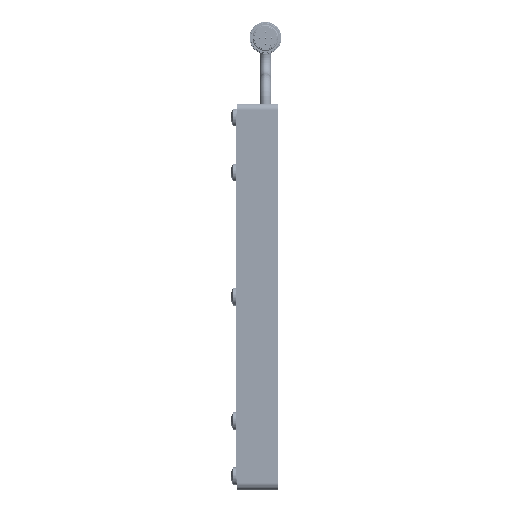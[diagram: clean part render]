
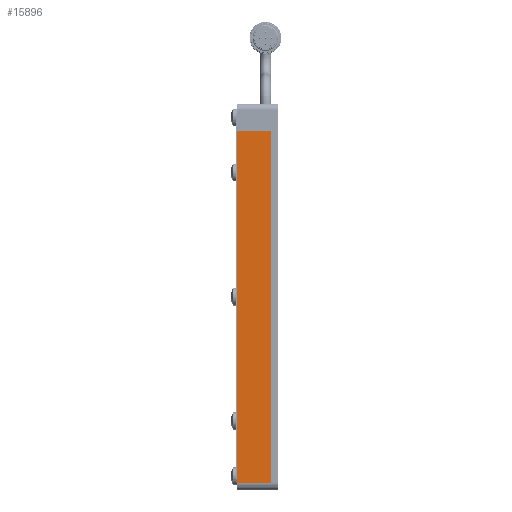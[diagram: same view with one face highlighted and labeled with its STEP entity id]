
A CAD part, left-side view. The second image highlights one B-rep face of the part: STEP entity #15896.
In plain terms, the highlighted planar face has unit normal (-1, 0, 0) as drawn and (0, 0, -1) by its records, which use the part's own axes.
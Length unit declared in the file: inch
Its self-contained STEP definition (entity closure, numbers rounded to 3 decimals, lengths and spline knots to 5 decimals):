
#50 = VECTOR ( 'NONE', #1965, 39.37008 ) ;
#1145 = EDGE_CURVE ( 'NONE', #10666, #13766, #6819, .T. ) ;
#1361 = DIRECTION ( 'NONE',  ( 1., 0., 0. ) ) ;
#1765 = DIRECTION ( 'NONE',  ( -1., 0., 0. ) ) ;
#1965 = DIRECTION ( 'NONE',  ( -1., 0., 0. ) ) ;
#2596 = LINE ( 'NONE', #11385, #10596 ) ;
#3356 = CARTESIAN_POINT ( 'NONE',  ( -3.5, 0.3125, -0.25 ) ) ;
#3615 = CARTESIAN_POINT ( 'NONE',  ( -3., -0.3125, -0.25 ) ) ;
#3803 = ORIENTED_EDGE ( 'NONE', *, *, #16302, .T. ) ;
#4858 = CARTESIAN_POINT ( 'NONE',  ( -3., -0.3125, -0.25 ) ) ;
#6378 = EDGE_LOOP ( 'NONE', ( #11820, #3803, #7895, #13921 ) ) ;
#6516 = VERTEX_POINT ( 'NONE', #7463 ) ;
#6557 = CARTESIAN_POINT ( 'NONE',  ( -3.5, -0.3125, -0.25 ) ) ;
#6819 = LINE ( 'NONE', #4858, #10435 ) ;
#7359 = FACE_OUTER_BOUND ( 'NONE', #6378, .T. ) ;
#7399 = AXIS2_PLACEMENT_3D ( 'NONE', #15153, #13646, #1361 ) ;
#7463 = CARTESIAN_POINT ( 'NONE',  ( 3.375, -0.3125, -0.25 ) ) ;
#7895 = ORIENTED_EDGE ( 'NONE', *, *, #16436, .T. ) ;
#8640 = CARTESIAN_POINT ( 'NONE',  ( -3., 0.3125, -0.25 ) ) ;
#8824 = CARTESIAN_POINT ( 'NONE',  ( 3.375, 0.3125, -0.25 ) ) ;
#9275 = VERTEX_POINT ( 'NONE', #8824 ) ;
#9318 = VECTOR ( 'NONE', #1765, 39.37008 ) ;
#9830 = EDGE_CURVE ( 'NONE', #9275, #13766, #18740, .T. ) ;
#10435 = VECTOR ( 'NONE', #12920, 39.37008 ) ;
#10596 = VECTOR ( 'NONE', #11603, 39.37008 ) ;
#10666 = VERTEX_POINT ( 'NONE', #3615 ) ;
#11385 = CARTESIAN_POINT ( 'NONE',  ( 3.375, 0.3125, -0.25 ) ) ;
#11603 = DIRECTION ( 'NONE',  ( 0., -1., 0. ) ) ;
#11820 = ORIENTED_EDGE ( 'NONE', *, *, #9830, .F. ) ;
#12920 = DIRECTION ( 'NONE',  ( 0., 1., 0. ) ) ;
#13646 = DIRECTION ( 'NONE',  ( 0., 0., 1. ) ) ;
#13766 = VERTEX_POINT ( 'NONE', #8640 ) ;
#13921 = ORIENTED_EDGE ( 'NONE', *, *, #1145, .T. ) ;
#15153 = CARTESIAN_POINT ( 'NONE',  ( -3.5, 0.3125, -0.25 ) ) ;
#15276 = LINE ( 'NONE', #6557, #9318 ) ;
#15896 = ADVANCED_FACE ( 'NONE', ( #7359 ), #16557, .F. ) ;
#16302 = EDGE_CURVE ( 'NONE', #9275, #6516, #2596, .T. ) ;
#16436 = EDGE_CURVE ( 'NONE', #6516, #10666, #15276, .T. ) ;
#16557 = PLANE ( 'NONE',  #7399 ) ;
#18740 = LINE ( 'NONE', #3356, #50 ) ;
